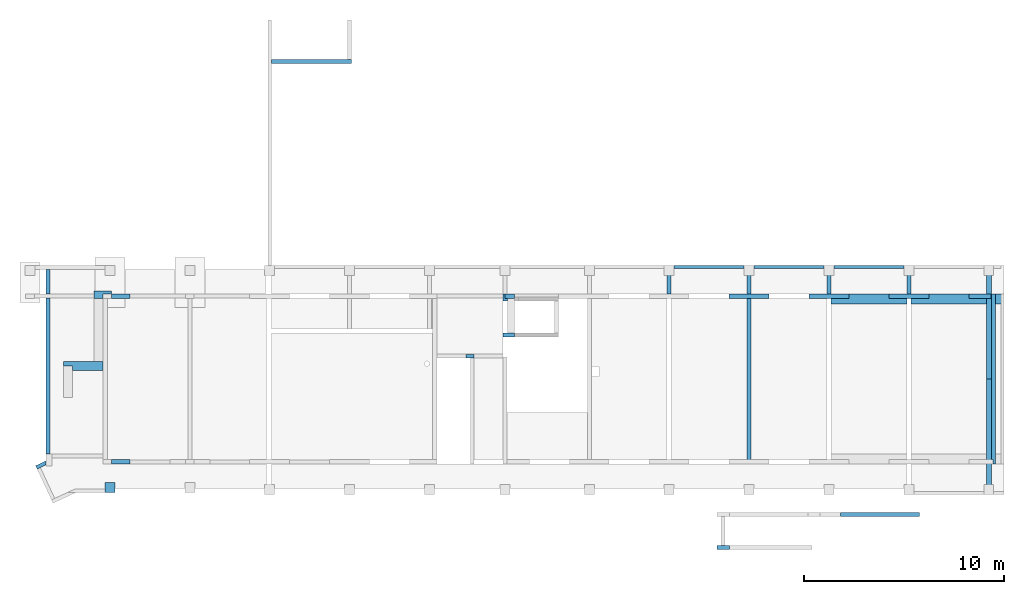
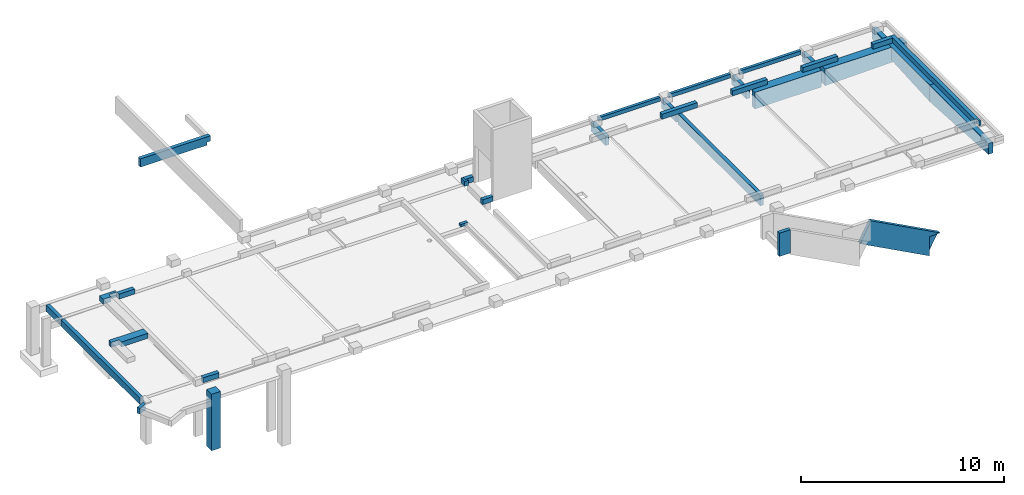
# One storey, part 2 of 5: 30 beams, 1 slab.
"""IFC2X3 building model written with IfcOpenShell, lengths in metres."""

from ifc_helpers import new_model, entity, si_unit, converted_unit, derived_unit, direction, frame, frame_2d, origin, origin_2d_with_axis, place, context, subcontext, project, spatial, rectangle, extrude, clip, halfspace, faceted_brep, material, type_object, element, save


model = new_model("IFC2X3")

# Units and contexts
model_context = context("Model", 3, precision=1e-05, world=origin(), true_north=direction((6.12303176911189e-17, 1.0)))
body_context = subcontext(model_context, "Body", "Model", "MODEL_VIEW")
ifc_project = project(units=[si_unit("LENGTHUNIT", "METRE"), si_unit("AREAUNIT", "SQUARE_METRE"), si_unit("VOLUMEUNIT", "CUBIC_METRE"), converted_unit("PLANEANGLEUNIT", "DEGREE", entity("IfcRatioMeasure", 0.0174532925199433), si_unit("PLANEANGLEUNIT", "RADIAN"), dimensions=[0, 0, 0, 0, 0, 0, 0]), si_unit("MASSUNIT", "GRAM", prefix="KILO"), derived_unit("MASSDENSITYUNIT", [(si_unit("MASSUNIT", "GRAM", prefix="KILO"), 1), (si_unit("LENGTHUNIT", "METRE"), -3)]), si_unit("TIMEUNIT", "SECOND"), si_unit("FREQUENCYUNIT", "HERTZ"), si_unit("THERMODYNAMICTEMPERATUREUNIT", "DEGREE_CELSIUS"), derived_unit("THERMALTRANSMITTANCEUNIT", [(si_unit("MASSUNIT", "GRAM", prefix="KILO"), 1), (si_unit("THERMODYNAMICTEMPERATUREUNIT", "KELVIN"), -1), (si_unit("TIMEUNIT", "SECOND"), -3)]), derived_unit("VOLUMETRICFLOWRATEUNIT", [(si_unit("LENGTHUNIT", "METRE"), 3), (si_unit("TIMEUNIT", "SECOND"), -1)]), si_unit("ELECTRICCURRENTUNIT", "AMPERE"), si_unit("ELECTRICVOLTAGEUNIT", "VOLT"), si_unit("POWERUNIT", "WATT"), si_unit("FORCEUNIT", "NEWTON"), si_unit("ILLUMINANCEUNIT", "LUX"), si_unit("LUMINOUSFLUXUNIT", "LUMEN"), si_unit("LUMINOUSINTENSITYUNIT", "CANDELA"), derived_unit("USERDEFINED", [(si_unit("MASSUNIT", "GRAM", prefix="KILO"), -1), (si_unit("LENGTHUNIT", "METRE"), -2), (si_unit("TIMEUNIT", "SECOND"), 3), (si_unit("LUMINOUSFLUXUNIT", "LUMEN"), 1)]), derived_unit("LINEARVELOCITYUNIT", [(si_unit("LENGTHUNIT", "METRE"), 1), (si_unit("TIMEUNIT", "SECOND"), -1)]), si_unit("PRESSUREUNIT", "PASCAL"), derived_unit("USERDEFINED", [(si_unit("LENGTHUNIT", "METRE"), -2), (si_unit("MASSUNIT", "GRAM", prefix="KILO"), 1), (si_unit("TIMEUNIT", "SECOND"), -2)])], contexts=[model_context])

# Site, building, storey
site_placement = place(None, origin())
site = spatial("IfcSite", under=ifc_project, at=site_placement, Name="Default", CompositionType="ELEMENT")
building_placement = place(site_placement, origin())
building = spatial("IfcBuilding", under=site, at=building_placement, CompositionType="ELEMENT")
storey_placement = place(building_placement, origin())
storey = spatial("IfcBuildingStorey", under=building, at=storey_placement, Name="S01", CompositionType="ELEMENT", Elevation=0.0)

# Beams
ifc_material_1 = material(Name="Béton, coulé sur place gris")
beam_type_1 = type_object("IfcBeamType", Name="20x55ht", PredefinedType="BEAM")
for number, where, z_axis, x_axis in (
    (1, (53.4897436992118, -185.056488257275, 0.0), (0.0, 0.0, 1.0), (0.0, 1.0, 0.0)),
    (2, (61.4897436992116, -185.056488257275, 0.0), (0.0, 0.0, 1.0), (0.0, 1.0, 0.0)),
):
    element("IfcBeam", number, at=place(storey_placement, frame(where, z_axis=z_axis, x_axis=x_axis)), inside=storey, type_object=beam_type_1, material=ifc_material_1, Name="II-Poutre rectangulaire - Béton:20x55ht", ObjectType="II-Poutre rectangulaire - Béton:20x55ht", context=body_context, shape_type="SweptSolid", body=[
        extrude(rectangle(XDim=0.55, YDim=0.200000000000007, at=frame_2d((-5.55111512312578e-17, 0.0), x_axis=(1.0, 0.0))), frame((0.0999999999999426, 0.0, -0.355000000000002), z_axis=(1.0, 0.0, 0.0), x_axis=(0.0, 0.0, -1.0)), (0.0, 0.0, 1.0), 1.44166921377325),
    ])
beam_1_placement = place(storey_placement, frame((65.4897436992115, -185.056488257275, 0.0), z_axis=(0.0, 0.0, 1.0), x_axis=(0.0, 1.0, 0.0)))
element("IfcBeam", 3, at=beam_1_placement, inside=storey, type_object=beam_type_1, material=ifc_material_1, Name="II-Poutre rectangulaire - Béton:20x55ht", ObjectType="II-Poutre rectangulaire - Béton:20x55ht", context=body_context, shape_type="SweptSolid", body=[
    extrude(rectangle(XDim=0.55, YDim=0.200000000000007, at=frame_2d((-5.55111512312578e-17, 0.0), x_axis=(1.0, 0.0))), frame((0.1127, 0.0, -0.355000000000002), z_axis=(1.0, 0.0, 0.0), x_axis=(0.0, 0.0, -1.0)), (0.0, 0.0, 1.0), 1.42896921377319),
])
beam_2_placement = place(storey_placement, frame((57.4897436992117, -184.956488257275, 0.0), z_axis=(0.0, 0.0, 1.0), x_axis=(0.0, 1.0, 0.0)))
element("IfcBeam", 4, at=beam_2_placement, inside=storey, type_object=beam_type_1, material=ifc_material_1, Name="II-Poutre rectangulaire - Béton:20x55ht", ObjectType="II-Poutre rectangulaire - Béton:20x55ht", context=body_context, shape_type="SweptSolid", body=[
    extrude(rectangle(XDim=0.55, YDim=0.200000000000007, at=frame_2d((-5.55111512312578e-17, 0.0), x_axis=(1.0, 0.0))), frame((0.0, 0.0, -0.355000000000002), z_axis=(1.0, 0.0, 0.0), x_axis=(0.0, 0.0, -1.0)), (0.0, 0.0, 1.0), 1.44166921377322),
])
beam_type_2 = type_object("IfcBeamType", Name="20x62ht", PredefinedType="BEAM")
beam_3_placement = place(storey_placement, frame((57.4897436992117, -193.359651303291, 0.0), z_axis=(0.0, 0.0, 1.0), x_axis=(0.0, 1.0, 0.0)))
element("IfcBeam", 5, at=beam_3_placement, inside=storey, type_object=beam_type_2, material=ifc_material_1, Name="II-Poutre rectangulaire - Béton:20x62ht", ObjectType="II-Poutre rectangulaire - Béton:20x62ht", context=body_context, shape_type="SweptSolid", body=[
    extrude(rectangle(XDim=0.62, YDim=0.200000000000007, at=frame_2d((-2.77555756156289e-17, 0.0), x_axis=(1.0, 0.0))), frame((0.0999999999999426, 0.0, -0.310000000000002), z_axis=(1.0, 0.0, 0.0), x_axis=(0.0, 0.0, -1.0)), (0.0, 0.0, 1.0), 8.10316304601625),
])
beam_type_3 = type_object("IfcBeamType", Name="20x40ht", PredefinedType="BEAM")
beam_4_placement = place(storey_placement, frame((22.2845176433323, -192.964651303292, -0.480000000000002), z_axis=(0.0, 0.0, 1.0), x_axis=(0.0, -1.0, 0.0)))
element("IfcBeam", 6, at=beam_4_placement, inside=storey, type_object=beam_type_3, material=ifc_material_1, Name="II-Poutre rectangulaire - Béton:20x40ht", ObjectType="II-Poutre rectangulaire - Béton:20x40ht", context=body_context, shape_type="Brep", body=[
    faceted_brep([(-9.24983225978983, 0.200000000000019, 0.4), (-9.24983225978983, 0.200000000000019, 0.220000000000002), (-9.24983225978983, 0.200000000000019, 0.0), (-9.24983225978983, 0.0, 0.0), (-9.24983225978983, 0.0, 0.4), (-7.80816304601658, 0.200000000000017, 0.4), (-7.80816304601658, 0.0, 0.4), (0.0, 0.0, 0.4), (0.0, 0.200000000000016, 0.4), (0.0, 0.0, 0.0), (-7.80816304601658, 0.0, 0.02), (-8.00816304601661, 0.0, 0.02), (-8.00816304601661, 0.0, 0.4), (0.0, 0.200000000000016, 0.0), (-8.00816304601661, 0.200000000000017, 0.4), (-8.00816304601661, 0.200000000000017, 0.220000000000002), (-8.00816304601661, 0.200000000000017, 0.02), (-7.80816304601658, 0.200000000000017, 0.02), (-7.80816304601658, 0.200000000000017, 0.200000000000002), (-7.80816304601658, 0.200000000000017, 0.380000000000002), (0.0, 0.200000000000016, 0.380000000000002), (0.0, 0.200000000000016, 0.200000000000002)], [[[0, 1, 2, 3, 4]], [[5, 6, 7, 8]], [[4, 3, 9, 7, 6, 10, 11, 12]], [[3, 2, 13, 9]], [[2, 1, 0, 14, 15, 16, 17, 18, 19, 5, 8, 20, 21, 13]], [[10, 17, 16, 11]], [[17, 10, 6, 5, 19, 18]], [[11, 16, 15, 14, 12]], [[0, 4, 12, 14]], [[8, 7, 9, 13, 21, 20]]]),
])
beam_type_4 = type_object("IfcBeamType", Name="50x90/100Ht", PredefinedType="BEAM")
beam_5_placement = place(storey_placement, frame((70.2530436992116, -185.206488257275, 0.0), z_axis=(0.0, 0.0, 1.0), x_axis=(-1.0, 0.0, 0.0)))
element("IfcBeam", 7, at=beam_5_placement, inside=storey, type_object=beam_type_4, Name="Poutre_Ai_Variable:50x90/100Ht", ObjectType="Poutre_Ai_Variable:50x90/100Ht", context=body_context, shape_type="Clipping", body=[
    clip(extrude(rectangle(XDim=1.0, YDim=0.50000000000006, at=frame_2d((-5.1986193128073e-14, 0.0), x_axis=(0.0, 1.0))), frame((0.0, 0.0, -0.5), z_axis=(1.0, 0.0, 0.0), x_axis=(0.0, 1.0, 0.0)), (0.0, 0.0, 1.0), 4.6632999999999), halfspace(frame((0.0, 0.0, -0.9), z_axis=(-0.021439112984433, 0.0, -0.999770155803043), x_axis=(0.0, 1.0, 0.0)), False)),
])
beam_type_5 = type_object("IfcBeamType", Name="50x100ht", PredefinedType="BEAM")
beam_6_placement = place(storey_placement, frame((61.5897436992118, -185.456488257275, -1.0)))
element("IfcBeam", 8, at=beam_6_placement, inside=storey, type_object=beam_type_5, material=ifc_material_1, Name="II-Poutre rectangulaire - Béton:50x100ht", ObjectType="II-Poutre rectangulaire - Béton:50x100ht", context=body_context, shape_type="Brep", body=[
    faceted_brep([(3.79999999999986, 0.0, 1.0), (3.79999999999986, 0.500000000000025, 1.0), (0.359999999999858, 0.500000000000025, 1.0), (0.359999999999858, 0.30000000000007, 1.0), (0.0, 0.300000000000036, 1.0), (0.0, 0.0, 1.0), (3.79999999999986, 0.0, 0.0), (3.79999999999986, 0.0, 0.770000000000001), (3.79999999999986, 0.0, 0.990000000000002), (0.0, 0.0, 0.990000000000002), (0.0, 0.0, 0.770000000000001), (0.0, 0.0, 0.0), (3.79999999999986, 0.500000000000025, 0.0), (0.0, 0.30000000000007, 0.0), (0.359999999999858, 0.300000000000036, 0.0), (0.359999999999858, 0.500000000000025, 0.0), (3.79999999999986, 0.500000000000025, 0.920000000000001), (3.79999999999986, 0.500000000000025, 0.740000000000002), (0.0, 0.30000000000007, 0.92), (0.0, 0.30000000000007, 0.37)], [[[0, 1, 2, 3, 4, 5]], [[6, 7, 8, 0, 5, 9, 10, 11]], [[12, 6, 11, 13, 14, 15]], [[1, 16, 17, 12, 15, 2]], [[1, 0, 8, 7, 6, 12, 17, 16]], [[5, 4, 18, 19, 13, 11, 10, 9]], [[3, 14, 13, 19, 18, 4]], [[14, 3, 2, 15]]]),
])
beam_type_6 = type_object("IfcBeamType", Name="25x66/100Ht", PredefinedType="BEAM")
beam_7_placement = place(storey_placement, frame((69.4897436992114, -195.001320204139, 0.0), z_axis=(0.0, 0.0, 1.0), x_axis=(0.0, 1.0, 0.0)))
element("IfcBeam", 9, at=beam_7_placement, inside=storey, type_object=beam_type_6, Name="Poutre_Ai_Variable:25x66/100Ht", ObjectType="Poutre_Ai_Variable:25x66/100Ht", context=body_context, shape_type="Clipping", body=[
    clip(extrude(rectangle(XDim=1.0, YDim=0.249999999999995, at=frame_2d((4.33680868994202e-15, 5.55111512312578e-17), x_axis=(0.0, 1.0))), frame((0.0, 0.0, -0.5), z_axis=(1.0, 0.0, 0.0), x_axis=(0.0, 1.0, 0.0)), (0.0, 0.0, 1.0), 5.79150116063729), halfspace(frame((0.0, 0.0, -0.66), z_axis=(-0.0586058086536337, 0.0, -0.998281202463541), x_axis=(0.0, 1.0, 0.0)), False)),
])
beam_type_7 = type_object("IfcBeamType", Name="25x66.5/100Ht", PredefinedType="BEAM")
beam_8_placement = place(storey_placement, frame((69.4897436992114, -183.514819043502, 0.0), z_axis=(0.0, 0.0, 1.0), x_axis=(0.0, -1.0, 0.0)))
element("IfcBeam", 10, at=beam_8_placement, inside=storey, type_object=beam_type_7, Name="Poutre_Ai_Variable:25x66.5/100Ht", ObjectType="Poutre_Ai_Variable:25x66.5/100Ht", context=body_context, shape_type="Clipping", body=[
    clip(extrude(rectangle(XDim=1.0, YDim=0.250000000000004, at=frame_2d((-4.33680868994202e-15, 0.0), x_axis=(0.0, 1.0))), frame((0.0, 0.0, -0.5), z_axis=(1.0, 0.0, 0.0), x_axis=(0.0, 1.0, 0.0)), (0.0, 0.0, 1.0), 5.69500000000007), halfspace(frame((0.0, 0.0, -0.665), z_axis=(-0.0587220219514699, 0.0, -0.998274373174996), x_axis=(0.0, -1.0, 0.0)), False)),
])
beam_type_8 = type_object("IfcBeamType", Name="22x30ht", PredefinedType="BEAM")
beam_9_placement = place(storey_placement, frame((26.4897436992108, -185.056488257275, 0.0), z_axis=(0.0, 0.0, 1.0), x_axis=(-1.0, 0.0, 0.0)))
element("IfcBeam", 11, at=beam_9_placement, inside=storey, type_object=beam_type_8, material=ifc_material_1, Name="II-Poutre rectangulaire - Béton:22x30ht", ObjectType="II-Poutre rectangulaire - Béton:22x30ht", context=body_context, shape_type="SweptSolid", body=[
    extrude(rectangle(XDim=0.3, YDim=0.219999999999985, at=frame_2d((0.0, 1.73264180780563e-14), x_axis=(1.0, 0.0))), frame((0.0, 0.0, 0.149999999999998), z_axis=(1.0, 0.0, 0.0), x_axis=(0.0, 0.0, -1.0)), (0.0, 0.0, 1.0), 0.907999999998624),
])
beam_10_placement = place(storey_placement, frame((26.4897436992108, -193.359651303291, 0.0), z_axis=(0.0, 0.0, 1.0), x_axis=(-1.0, 0.0, 0.0)))
element("IfcBeam", 12, at=beam_10_placement, inside=storey, type_object=beam_type_8, material=ifc_material_1, Name="II-Poutre rectangulaire - Béton:22x30ht", ObjectType="II-Poutre rectangulaire - Béton:22x30ht", context=body_context, shape_type="SweptSolid", body=[
    extrude(rectangle(XDim=0.3, YDim=0.219999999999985, at=frame_2d((0.0, 1.73264180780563e-14), x_axis=(1.0, 0.0))), frame((0.0, 0.0, 0.149999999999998), z_axis=(1.0, 0.0, 0.0), x_axis=(0.0, 0.0, -1.0)), (0.0, 0.0, 1.0), 0.907999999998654),
])
beam_11_placement = place(storey_placement, frame((45.749743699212, -185.05648794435, 0.0), z_axis=(0.0, 0.0, 1.0), x_axis=(-1.0, 0.0, 0.0)))
element("IfcBeam", 13, at=beam_11_placement, inside=storey, type_object=beam_type_8, material=ifc_material_1, Name="II-Poutre rectangulaire - Béton:22x30ht", ObjectType="II-Poutre rectangulaire - Béton:22x30ht", context=body_context, shape_type="SweptSolid", body=[
    extrude(rectangle(XDim=0.3, YDim=0.220000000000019, at=origin_2d_with_axis()), frame((0.0, 0.0, 0.149999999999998), z_axis=(1.0, 0.0, 0.0), x_axis=(0.0, 0.0, -1.0)), (0.0, 0.0, 1.0), 0.470000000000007),
])
beam_12_placement = place(storey_placement, frame((45.169743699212, -185.306488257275, 0.0), z_axis=(0.0, 0.0, 1.0), x_axis=(0.0, 1.0, 0.0)))
element("IfcBeam", 14, at=beam_12_placement, inside=storey, type_object=beam_type_8, material=ifc_material_1, Name="II-Poutre rectangulaire - Béton:22x30ht", ObjectType="II-Poutre rectangulaire - Béton:22x30ht", context=body_context, shape_type="Brep", body=[
    faceted_brep([(0.360000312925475, 0.0, 0.0), (0.360000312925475, 0.0, 0.3), (0.360000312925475, -0.110000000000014, 0.3), (0.360000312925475, -0.110000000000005, 0.0), (0.0, 0.0, 0.3), (0.0, 0.0, 0.0), (0.0, -0.220000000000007, 0.0), (0.0, -0.220000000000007, 0.3), (0.14000031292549, -0.220000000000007, 0.3), (0.140000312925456, -0.110000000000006, 0.3), (0.14000031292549, -0.220000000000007, 0.0), (0.149999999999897, 0.0, 0.0), (0.349999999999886, 0.0, 0.0), (0.140000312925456, -0.110000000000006, 0.0)], [[[0, 1, 2, 3]], [[4, 5, 6, 7]], [[4, 7, 8, 9, 2, 1]], [[7, 6, 10, 8]], [[6, 5, 11, 12, 0, 3, 13, 10]], [[1, 0, 12, 11, 5, 4]], [[13, 9, 8, 10]], [[9, 13, 3, 2]]]),
])
beam_13_placement = place(storey_placement, frame((69.5997436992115, -193.469651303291, 0.0), z_axis=(0.0, 0.0, 1.0), x_axis=(0.0, -1.0, 0.0)))
element("IfcBeam", 15, at=beam_13_placement, inside=storey, type_object=beam_type_8, material=ifc_material_1, Name="II-Poutre rectangulaire - Béton:22x30ht", ObjectType="II-Poutre rectangulaire - Béton:22x30ht", context=body_context, shape_type="Brep", body=[
    faceted_brep([(0.0, 0.220000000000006, 0.0), (0.0, 0.220000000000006, 0.3), (0.0, 0.109999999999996, 0.3), (0.0, 0.109999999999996, 0.0), (-8.5231505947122, 0.220000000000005, 0.3), (-8.5231505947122, 0.220000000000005, 0.0), (-8.5231505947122, 0.0, 0.0), (-8.5231505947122, 0.0, 0.3), (-8.30316304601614, 0.0, 0.3), (-0.220000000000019, 0.0, 0.3), (-0.220000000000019, 0.110000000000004, 0.3), (-8.30316304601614, 0.0, 0.0), (-0.220000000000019, 0.0, 0.0), (-0.220000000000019, 0.110000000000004, 0.0)], [[[0, 1, 2, 3]], [[4, 5, 6, 7]], [[4, 7, 8, 9, 10, 2, 1]], [[7, 6, 11, 12, 9, 8]], [[6, 5, 0, 3, 13, 12, 11]], [[1, 0, 5, 4]], [[10, 13, 3, 2]], [[13, 10, 9, 12]]]),
])
for number, where, z_axis, x_axis in (
    (16, (58.4897436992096, -185.056488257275, 0.0), (0.0, 0.0, 1.0), (-1.0, 0.0, 0.0)),
    (17, (62.4897436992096, -185.056488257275, 0.0), (0.0, 0.0, 1.0), (-1.0, 0.0, 0.0)),
    (18, (66.4897436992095, -185.056488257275, 0.0), (0.0, 0.0, 1.0), (-1.0, 0.0, 0.0)),
):
    element("IfcBeam", number, at=place(storey_placement, frame(where, z_axis=z_axis, x_axis=x_axis)), inside=storey, type_object=beam_type_8, material=ifc_material_1, Name="II-Poutre rectangulaire - Béton:22x30ht", ObjectType="II-Poutre rectangulaire - Béton:22x30ht", context=body_context, shape_type="SweptSolid", body=[
        extrude(rectangle(XDim=0.3, YDim=0.219999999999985, at=frame_2d((0.0, 1.73264180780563e-14), x_axis=(1.0, 0.0))), frame((0.0, 0.0, 0.149999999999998), z_axis=(1.0, 0.0, 0.0), x_axis=(0.0, 0.0, -1.0)), (0.0, 0.0, 1.0), 1.99999999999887),
    ])
beam_14_placement = place(storey_placement, frame((69.6097436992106, -185.056488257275, 0.0), z_axis=(0.0, 0.0, 1.0), x_axis=(-1.0, 0.0, 0.0)))
element("IfcBeam", 19, at=beam_14_placement, inside=storey, type_object=beam_type_8, material=ifc_material_1, Name="II-Poutre rectangulaire - Béton:22x30ht", ObjectType="II-Poutre rectangulaire - Béton:22x30ht", context=body_context, shape_type="SweptSolid", body=[
    extrude(rectangle(XDim=0.3, YDim=0.219999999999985, at=frame_2d((0.0, 1.73264180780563e-14), x_axis=(1.0, 0.0))), frame((0.00999999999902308, 0.0, 0.149999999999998), z_axis=(1.0, 0.0, 0.0), x_axis=(0.0, 0.0, -1.0)), (0.0, 0.0, 1.0), 1.11000000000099),
])
beam_type_9 = type_object("IfcBeamType", Name="18x35ht", PredefinedType="BEAM")
beam_15_placement = place(storey_placement, frame((22.3397705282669, -193.386111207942, 0.0), z_axis=(0.0, 0.0, 1.0), x_axis=(-0.906746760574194, -0.421675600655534, 0.0)))
element("IfcBeam", 20, at=beam_15_placement, inside=storey, type_object=beam_type_9, material=ifc_material_1, Name="II-Poutre rectangulaire - Béton:18x35ht", ObjectType="II-Poutre rectangulaire - Béton:18x35ht", context=body_context, shape_type="Clipping", body=[
    clip(extrude(rectangle(XDim=0.35, YDim=0.180000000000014, at=frame_2d((-2.77555756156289e-17, -1.84435799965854e-14), x_axis=(1.0, 0.0))), frame((0.0190814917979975, 0.0, -0.255000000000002), z_axis=(1.0, 0.0, 0.0), x_axis=(0.0, 0.0, -1.0)), (0.0, 0.0, 1.0), 0.565918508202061), halfspace(frame((-0.127618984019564, -0.405456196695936, 0.0), z_axis=(-0.906746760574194, 0.421675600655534, 0.0), x_axis=(0.0, 0.0, -1.0)), False)),
])
beam_type_10 = type_object("IfcBeamType", Name="20x30ht", PredefinedType="BEAM")
beam_16_placement = place(storey_placement, frame((45.749743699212, -187.006488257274, 0.0), z_axis=(0.0, 0.0, 1.0), x_axis=(-1.0, 0.0, 0.0)))
element("IfcBeam", 21, at=beam_16_placement, inside=storey, type_object=beam_type_10, material=ifc_material_1, Name="II-Poutre rectangulaire - Béton:20x30ht", ObjectType="II-Poutre rectangulaire - Béton:20x30ht", context=body_context, shape_type="SweptSolid", body=[
    extrude(rectangle(XDim=0.3, YDim=0.199999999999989, at=origin_2d_with_axis()), frame((0.0, 0.0, 0.149999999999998), z_axis=(1.0, 0.0, 0.0), x_axis=(0.0, 0.0, -1.0)), (0.0, 0.0, 1.0), 0.589999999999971),
])
beam_type_11 = type_object("IfcBeamType", Name="16x23ht", PredefinedType="BEAM")
for number, where, z_axis, x_axis in (
    (22, (57.2947436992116, -183.594819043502, 0.0), (0.0, 0.0, 1.0), (-1.0, 0.0, 0.0)),
    (23, (61.2947436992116, -183.594819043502, 0.0), (0.0, 0.0, 1.0), (-1.0, 0.0, 0.0)),
):
    element("IfcBeam", number, at=place(storey_placement, frame(where, z_axis=z_axis, x_axis=x_axis)), inside=storey, type_object=beam_type_11, material=ifc_material_1, Name="II-Poutre rectangulaire - Béton:16x23ht", ObjectType="II-Poutre rectangulaire - Béton:16x23ht", context=body_context, shape_type="SweptSolid", body=[
        extrude(rectangle(XDim=0.23, YDim=0.159999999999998, at=origin_2d_with_axis()), frame((0.0549999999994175, 0.0, 0.0349999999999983), z_axis=(1.0, 0.0, 0.0), x_axis=(0.0, 0.0, -1.0)), (0.0, 0.0, 1.0), 3.5),
    ])
beam_17_placement = place(storey_placement, frame((65.2947436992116, -183.594819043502, 0.0), z_axis=(0.0, 0.0, 1.0), x_axis=(-1.0, 0.0, 0.0)))
element("IfcBeam", 24, at=beam_17_placement, inside=storey, type_object=beam_type_11, material=ifc_material_1, Name="II-Poutre rectangulaire - Béton:16x23ht", ObjectType="II-Poutre rectangulaire - Béton:16x23ht", context=body_context, shape_type="SweptSolid", body=[
    extrude(rectangle(XDim=0.23, YDim=0.159999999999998, at=origin_2d_with_axis()), frame((0.0549999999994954, 0.0, 0.0349999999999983), z_axis=(1.0, 0.0, 0.0), x_axis=(0.0, 0.0, -1.0)), (0.0, 0.0, 1.0), 3.49999999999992),
])
beam_type_12 = type_object("IfcBeamType", Name="18x15ht", PredefinedType="BEAM")
beam_18_placement = place(storey_placement, frame((43.3097436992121, -188.159651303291, 0.0)))
element("IfcBeam", 25, at=beam_18_placement, inside=storey, type_object=beam_type_12, material=ifc_material_1, Name="II-Poutre rectangulaire - Béton:18x15ht", ObjectType="II-Poutre rectangulaire - Béton:18x15ht", context=body_context, shape_type="SweptSolid", body=[
    extrude(rectangle(XDim=0.15, YDim=0.180000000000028, at=origin_2d_with_axis()), frame((0.0, 0.0900000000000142, 0.0149999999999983), z_axis=(1.0, 0.0, 0.0), x_axis=(0.0, 0.0, -1.0)), (0.0, 0.0, 1.0), 0.412499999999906),
])
beam_type_13 = type_object("IfcBeamType", Name="20x132ht", PredefinedType="BEAM")
beam_19_placement = place(storey_placement, frame((61.4363880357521, -196.099651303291, -4.70690693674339), z_axis=(0.471466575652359, 0.0, 0.881883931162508), x_axis=(0.881883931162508, 0.0, -0.471466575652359)))
element("IfcBeam", 26, at=beam_19_placement, inside=storey, type_object=beam_type_13, material=ifc_material_1, Name="II-Poutre rectangulaire - Béton:20x132ht", ObjectType="II-Poutre rectangulaire - Béton:20x132ht", context=body_context, shape_type="Brep", body=[
    faceted_brep([(3.48525436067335, 0.200000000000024, 3.18326213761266), (3.48525436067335, 0.0, 3.18326213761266), (3.48525436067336, 0.0, 3.18106505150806), (3.48525436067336, 0.198331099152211, 3.18106505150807), (3.48525436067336, 0.198331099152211, 1.8660195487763), (3.48525436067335, 0.0, 1.86601954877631), (3.48525436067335, 0.0, 1.86326213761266), (3.48525436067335, 0.200000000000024, 1.86326213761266), (-0.996124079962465, 0.200000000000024, 3.18326213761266), (-0.996124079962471, 0.200000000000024, 1.86326213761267), (-0.996124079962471, 0.198331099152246, 1.86326213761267), (-0.996124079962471, 0.0, 1.86326213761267), (-0.996124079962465, 0.0, 3.18326213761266), (3.47335617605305, 0.0, 3.18326213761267), (3.47335617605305, 0.198331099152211, 3.18326213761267), (3.48407976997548, 0.198331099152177, 3.18326213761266), (3.48407976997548, 0.0, 3.18326213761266), (-0.962371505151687, 0.0, 1.86326213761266), (2.93492808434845, 0.198331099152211, 2.89541150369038), (3.44542711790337, 0.198331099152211, 1.94051688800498), (2.93492808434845, 0.0, 2.89541150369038)], [[[0, 1, 2, 3, 4, 5, 6, 7]], [[8, 9, 10, 11, 12]], [[1, 0, 8, 12, 13, 14, 15, 16]], [[2, 1, 16]], [[7, 6, 17, 11, 10, 9]], [[0, 7, 9, 8]], [[3, 15, 14, 18, 19, 4]], [[4, 19, 18, 20, 5]], [[20, 18, 14, 13]], [[15, 3, 2, 16]], [[12, 11, 17, 6, 5, 20, 13]]]),
])
beam_type_14 = type_object("IfcBeamType", Name="20x140ht", PredefinedType="BEAM")
beam_20_placement = place(storey_placement, frame((55.8887977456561, -197.746420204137, -0.420000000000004)))
element("IfcBeam", 27, at=beam_20_placement, inside=storey, type_object=beam_type_14, material=ifc_material_1, Name="II-Poutre rectangulaire - Béton:20x140ht", ObjectType="II-Poutre rectangulaire - Béton:20x140ht", context=body_context, shape_type="Brep", body=[
    faceted_brep([(0.621176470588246, 0.0, 1.4), (0.621176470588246, 0.0, 0.0), (0.621176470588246, 0.00166890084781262, 0.0), (0.621176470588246, 0.00166890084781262, 1.4), (0.0, 0.200000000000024, 0.0), (0.0, 0.0, 0.0), (0.0, 0.0, 1.4), (0.0, 0.200000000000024, 1.4), (0.0, 0.200000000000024, 0.235294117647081), (0.621176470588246, 0.200000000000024, 1.4), (0.200946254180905, 0.200000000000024, 0.0), (0.400946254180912, 0.200000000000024, 0.0), (0.441176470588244, 0.199999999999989, 0.0), (0.441176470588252, 0.00166890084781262, 0.0), (0.0, 0.00166890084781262, 0.235294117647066), (0.400946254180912, 0.00166890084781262, 0.0214561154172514), (0.200946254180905, 0.00166890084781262, 0.128122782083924)], [[[0, 1, 2, 3]], [[4, 5, 6, 7, 8]], [[7, 6, 0, 3, 9]], [[1, 0, 6, 5]], [[5, 4, 10, 11, 12, 13, 2, 1]], [[7, 9, 8]], [[3, 14, 8, 9]], [[14, 3, 2, 13, 15, 16]], [[8, 14, 16, 15, 13, 12]], [[4, 8, 12, 11, 10]]]),
])
beam_type_15 = type_object("IfcBeamType", Name="45x30ht", PredefinedType="BEAM")
beam_21_placement = place(storey_placement, frame((23.1797436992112, -188.789650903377, 0.0), z_axis=(0.0, 0.0, 1.0), x_axis=(-1.0, 0.0, 0.0)))
element("IfcBeam", 28, at=beam_21_placement, inside=storey, type_object=beam_type_15, material=ifc_material_1, Name="II-Poutre rectangulaire - Béton:45x30ht", ObjectType="II-Poutre rectangulaire - Béton:45x30ht", context=body_context, shape_type="Brep", body=[
    faceted_brep([(-1.96200000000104, 0.0, 0.3), (-1.96200000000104, 0.0, 0.0), (-1.96200000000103, -0.450000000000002, 0.0), (-1.96200000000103, -0.450000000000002, 0.3), (-1.51200000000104, -0.450000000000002, 0.3), (0.0, -0.450000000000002, 0.3), (0.0, -0.225000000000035, 0.3), (-0.450000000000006, -0.225000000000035, 0.3), (-0.450000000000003, 0.0, 0.3), (-1.51200000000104, -0.450000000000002, 0.0), (0.0, -0.450000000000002, 0.0), (-0.450000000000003, 0.0, 0.0), (-0.450000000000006, -0.225000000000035, 0.0), (0.0, -0.225000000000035, 0.0)], [[[0, 1, 2, 3]], [[0, 3, 4, 5, 6, 7, 8]], [[3, 2, 9, 10, 5, 4]], [[2, 1, 11, 12, 13, 10, 9]], [[1, 0, 8, 11]], [[7, 12, 11, 8]], [[12, 7, 6, 13]], [[5, 10, 13, 6]]]),
])
beam_type_16 = type_object("IfcBeamType", Name="36x30ht", PredefinedType="BEAM")
beam_22_placement = place(storey_placement, frame((24.6917436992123, -185.166488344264, 0.0), z_axis=(0.0, 0.0, 1.0), x_axis=(-1.0, 0.0, 0.0)))
element("IfcBeam", 29, at=beam_22_placement, inside=storey, type_object=beam_type_16, material=ifc_material_1, Name="II-Poutre rectangulaire - Béton:36x30ht", ObjectType="II-Poutre rectangulaire - Béton:36x30ht", context=body_context, shape_type="Brep", body=[
    faceted_brep([(0.0, 0.0, 0.3), (0.0, -0.359999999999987, 0.3), (0.0, -0.359999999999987, 0.0), (0.0, 0.0, 0.0), (-0.889999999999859, -0.359999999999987, 0.0), (-0.889999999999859, -0.359999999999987, 0.3), (-0.88999999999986, -0.220000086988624, 0.3), (-0.88999999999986, -0.220000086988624, 0.0), (-0.450000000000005, 0.0, 0.3), (-0.450000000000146, -0.220000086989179, 0.3), (-0.450000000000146, -0.220000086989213, 0.0), (-0.450000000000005, 0.0, 0.0)], [[[0, 1, 2, 3]], [[4, 5, 6, 7]], [[1, 0, 8, 9, 6, 5]], [[2, 1, 5, 4]], [[3, 2, 4, 7, 10, 11]], [[0, 3, 11, 8]], [[8, 11, 10, 9]], [[9, 10, 7, 6]]]),
])
beam_type_17 = type_object("IfcBeamType", Name="20x50ht", PredefinedType="BEAM")
beam_23_placement = place(storey_placement, frame((33.5897436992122, -173.406729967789, -2.0), z_axis=(0.0, 0.0, 1.0), x_axis=(-1.0, 0.0, 0.0)))
element("IfcBeam", 30, at=beam_23_placement, inside=storey, type_object=beam_type_17, material=ifc_material_1, Name="II-Poutre rectangulaire - Béton:20x50ht", ObjectType="II-Poutre rectangulaire - Béton:20x50ht", context=body_context, shape_type="Brep", body=[
    faceted_brep([(0.0, 0.0, 0.5), (0.0, -0.200000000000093, 0.5), (0.0, -0.200000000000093, 0.220000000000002), (0.0, -0.200000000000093, 0.0), (0.0, 0.0, 0.0), (-4.0, 0.0, 0.5), (-4.0, -0.200000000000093, 0.5), (-3.79999999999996, -0.200000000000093, 0.5), (-4.0, -0.200000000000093, 0.180000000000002), (-3.79999999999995, -0.200000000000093, 0.180000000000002), (-3.79999999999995, -0.200000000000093, 0.0), (-3.79999999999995, 0.0, 0.0), (-3.79999999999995, 0.0, 0.180000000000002), (-4.0, 0.0, 0.180000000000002)], [[[0, 1, 2, 3, 4]], [[1, 0, 5, 6, 7]], [[3, 2, 1, 7, 6, 8, 9, 10]], [[4, 3, 10, 11]], [[0, 4, 11, 12, 13, 5]], [[6, 5, 13, 8]], [[9, 12, 11, 10]], [[12, 9, 8, 13]]]),
])

# Slab
ifc_material_2 = material(Name="Béton - Béton coulé sur place")
slab_type = type_object("IfcSlabType", Name="50x50x340ht", PredefinedType="FLOOR", material=ifc_material_2)
slab_placement = place(storey_placement, origin())
element("IfcSlab", 31, at=slab_placement, inside=storey, type_object=slab_type, Name="M_Base-Rectangulaire:50x50x340ht", ObjectType="M_Base-Rectangulaire:50x50x340ht", PredefinedType="FLOOR", context=body_context, shape_type="SweptSolid", body=[
    extrude(rectangle(XDim=0.49999999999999, YDim=0.499999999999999, at=frame_2d((-1.73333569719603e-14, -2.16493489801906e-15), x_axis=(1.0, 0.0))), frame((25.4897436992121, -194.65132020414, -3.09879999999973), z_axis=(0.0, 0.0, 1.0), x_axis=(0.0, 1.0, 0.0)), (0.0, 0.0, 1.0), 3.39879999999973),
])

save(model, "model.ifc")
